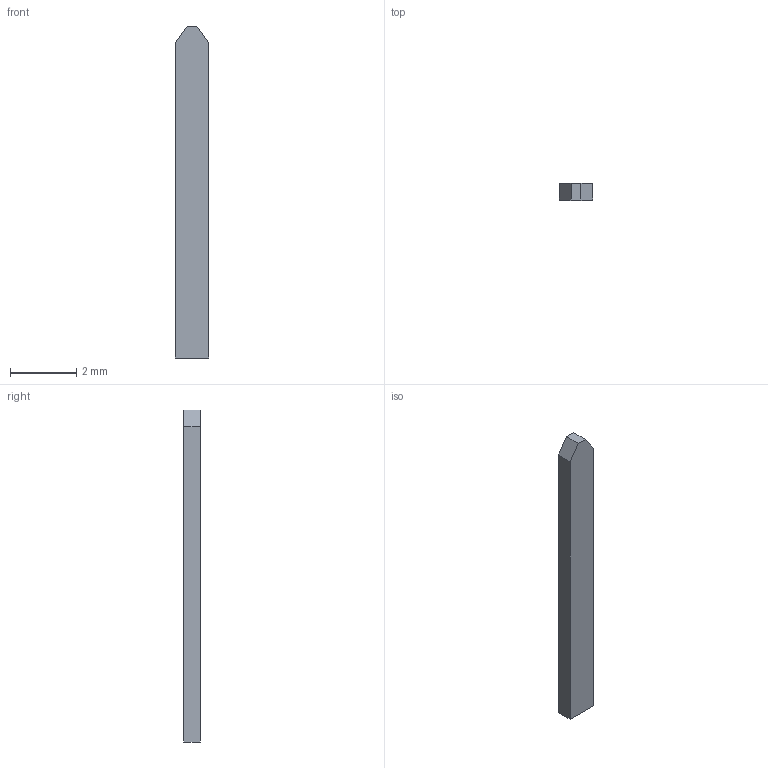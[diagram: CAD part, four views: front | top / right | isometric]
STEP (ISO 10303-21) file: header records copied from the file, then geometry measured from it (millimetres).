
FILE_DESCRIPTION(/* description */ ('STEP AP242 Edition 2','CAx-IF Rec.Pracs.---Representation and Presentation of Product Manufacturing Information (PMI)---4.0---2014-10-13','CAx-IF Rec.Pracs.---3D Tessellated Geometry---0.4---2014-09-14','2;1','CAx-IF Rec.Pracs.---User Defined Attributes---1.5---2016-08-15'),/* implementation_level */ '2;1');
FILE_NAME(/* name */ 'Assembly V2 - pin v1_5',/* time_stamp */ '2026-02-05T22:44:43Z',/* author */ (''),/* organization */ (''),/* preprocessor_version */ 'ST-DEVELOPER v20',/* originating_system */ 'ONSHAPE BY PTC INC, 1.210',/* authorisation */ ' ');
FILE_SCHEMA (('AP242_MANAGED_MODEL_BASED_3D_ENGINEERING_MIM_LF { 1 0 10303 442 3 1 4 }'));
Length unit declared in the file: metre
Products named in the file (1): pin v1_5
Bounding box: 1 x 0.5 x 10 mm (x, y, z)
Volume: 4.9 mm3; surface area: 30.4 mm2
Topology: 1 solids, 1 shells, 8 faces, 18 edges, 12 vertices
Faces by surface type: plane 8
Entity records: 244 total; most frequent: CARTESIAN_POINT 39, ORIENTED_EDGE 36, DIRECTION 36, EDGE_CURVE 18, LINE 18, VECTOR 18, VERTEX_POINT 12, AXIS2_PLACEMENT_3D 9
